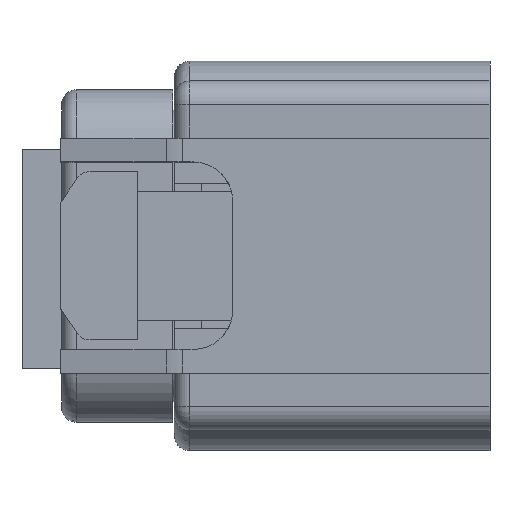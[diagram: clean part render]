
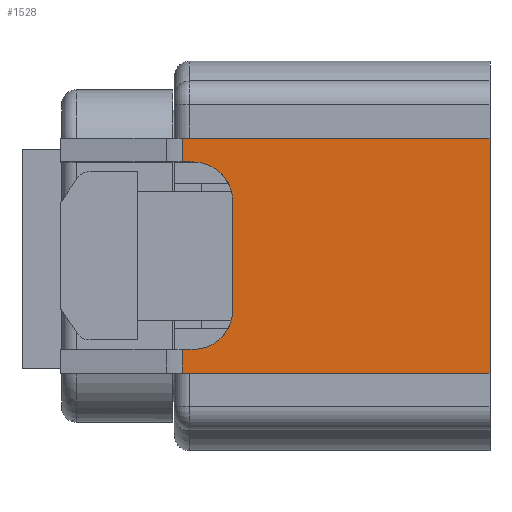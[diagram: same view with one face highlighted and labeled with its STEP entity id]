
A CAD part, top view. The second image highlights one B-rep face of the part: STEP entity #1528.
In plain terms, the highlighted planar face has unit normal (0, 0, 1).
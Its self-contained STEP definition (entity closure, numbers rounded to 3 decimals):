
#1469=AXIS2_PLACEMENT_3D('Plane Axis2P3D',#1466,#1467,#1468) ;
#1480=AXIS2_PLACEMENT_3D('Circle Axis2P3D',#1478,#1479,$) ;
#1494=AXIS2_PLACEMENT_3D('Circle Axis2P3D',#1492,#1493,$) ;
#637=CARTESIAN_POINT('Vertex',(-18.132,7.4,12.19)) ;
#640=CARTESIAN_POINT('Line Origine',(-8.451,7.4,12.19)) ;
#644=CARTESIAN_POINT('Vertex',(1.23,7.4,12.19)) ;
#990=CARTESIAN_POINT('Vertex',(1.23,-7.4,12.19)) ;
#993=CARTESIAN_POINT('Line Origine',(-8.451,-7.4,12.19)) ;
#997=CARTESIAN_POINT('Vertex',(-18.132,-7.4,12.19)) ;
#1450=CARTESIAN_POINT('Vertex',(-18.132,5.9,12.19)) ;
#1453=CARTESIAN_POINT('Line Origine',(-18.132,0.,12.19)) ;
#1466=CARTESIAN_POINT('Axis2P3D Location',(-16.95,-7.4,12.19)) ;
#1471=CARTESIAN_POINT('Line Origine',(-17.791,5.9,12.19)) ;
#1475=CARTESIAN_POINT('Vertex',(-17.45,5.9,12.19)) ;
#1478=CARTESIAN_POINT('Axis2P3D Location',(-17.45,3.4,12.19)) ;
#1482=CARTESIAN_POINT('Vertex',(-14.95,3.4,12.19)) ;
#1485=CARTESIAN_POINT('Line Origine',(-14.95,0.,12.19)) ;
#1489=CARTESIAN_POINT('Vertex',(-14.95,-3.4,12.19)) ;
#1492=CARTESIAN_POINT('Axis2P3D Location',(-17.45,-3.4,12.19)) ;
#1496=CARTESIAN_POINT('Vertex',(-17.45,-5.9,12.19)) ;
#1499=CARTESIAN_POINT('Line Origine',(-17.791,-5.9,12.19)) ;
#1503=CARTESIAN_POINT('Vertex',(-18.132,-5.9,12.19)) ;
#1506=CARTESIAN_POINT('Line Origine',(-18.132,-6.65,12.19)) ;
#1511=CARTESIAN_POINT('Line Origine',(1.23,0.,12.19)) ;
#641=DIRECTION('Vector Direction',(1.,0.,0.)) ;
#994=DIRECTION('Vector Direction',(1.,0.,0.)) ;
#1454=DIRECTION('Vector Direction',(0.,1.,0.)) ;
#1467=DIRECTION('Axis2P3D Direction',(0.,0.,-1.)) ;
#1468=DIRECTION('Axis2P3D XDirection',(0.,1.,0.)) ;
#1472=DIRECTION('Vector Direction',(1.,0.,0.)) ;
#1479=DIRECTION('Axis2P3D Direction',(0.,0.,-1.)) ;
#1486=DIRECTION('Vector Direction',(0.,-1.,0.)) ;
#1493=DIRECTION('Axis2P3D Direction',(0.,0.,-1.)) ;
#1500=DIRECTION('Vector Direction',(-1.,0.,0.)) ;
#1507=DIRECTION('Vector Direction',(0.,1.,0.)) ;
#1512=DIRECTION('Vector Direction',(0.,1.,0.)) ;
#642=VECTOR('Line Direction',#641,1.) ;
#995=VECTOR('Line Direction',#994,1.) ;
#1455=VECTOR('Line Direction',#1454,1.) ;
#1473=VECTOR('Line Direction',#1472,1.) ;
#1487=VECTOR('Line Direction',#1486,1.) ;
#1501=VECTOR('Line Direction',#1500,1.) ;
#1508=VECTOR('Line Direction',#1507,1.) ;
#1513=VECTOR('Line Direction',#1512,1.) ;
#1517=ORIENTED_EDGE('',*,*,#1457,.F.) ;
#1518=ORIENTED_EDGE('',*,*,#1477,.T.) ;
#1519=ORIENTED_EDGE('',*,*,#1484,.T.) ;
#1520=ORIENTED_EDGE('',*,*,#1491,.F.) ;
#1521=ORIENTED_EDGE('',*,*,#1498,.T.) ;
#1522=ORIENTED_EDGE('',*,*,#1505,.T.) ;
#1523=ORIENTED_EDGE('',*,*,#1510,.F.) ;
#1524=ORIENTED_EDGE('',*,*,#999,.T.) ;
#1525=ORIENTED_EDGE('',*,*,#1515,.T.) ;
#1526=ORIENTED_EDGE('',*,*,#646,.F.) ;
#1528=ADVANCED_FACE('6189-7199',(#1527),#1470,.F.) ;
#1481=CIRCLE('generated circle',#1480,2.5) ;
#1495=CIRCLE('generated circle',#1494,2.5) ;
#646=EDGE_CURVE('',#638,#645,#643,.T.) ;
#999=EDGE_CURVE('',#998,#991,#996,.T.) ;
#1457=EDGE_CURVE('',#1451,#638,#1456,.T.) ;
#1477=EDGE_CURVE('',#1451,#1476,#1474,.T.) ;
#1484=EDGE_CURVE('',#1476,#1483,#1481,.T.) ;
#1491=EDGE_CURVE('',#1490,#1483,#1488,.F.) ;
#1498=EDGE_CURVE('',#1490,#1497,#1495,.T.) ;
#1505=EDGE_CURVE('',#1497,#1504,#1502,.T.) ;
#1510=EDGE_CURVE('',#998,#1504,#1509,.T.) ;
#1515=EDGE_CURVE('',#991,#645,#1514,.T.) ;
#1516=EDGE_LOOP('',(#1517,#1518,#1519,#1520,#1521,#1522,#1523,#1524,#1525,#1526)) ;
#1527=FACE_OUTER_BOUND('',#1516,.T.) ;
#643=LINE('Line',#640,#642) ;
#996=LINE('Line',#993,#995) ;
#1456=LINE('Line',#1453,#1455) ;
#1474=LINE('Line',#1471,#1473) ;
#1488=LINE('Line',#1485,#1487) ;
#1502=LINE('Line',#1499,#1501) ;
#1509=LINE('Line',#1506,#1508) ;
#1514=LINE('Line',#1511,#1513) ;
#1470=PLANE('',#1469) ;
#638=VERTEX_POINT('',#637) ;
#645=VERTEX_POINT('',#644) ;
#991=VERTEX_POINT('',#990) ;
#998=VERTEX_POINT('',#997) ;
#1451=VERTEX_POINT('',#1450) ;
#1476=VERTEX_POINT('',#1475) ;
#1483=VERTEX_POINT('',#1482) ;
#1490=VERTEX_POINT('',#1489) ;
#1497=VERTEX_POINT('',#1496) ;
#1504=VERTEX_POINT('',#1503) ;
